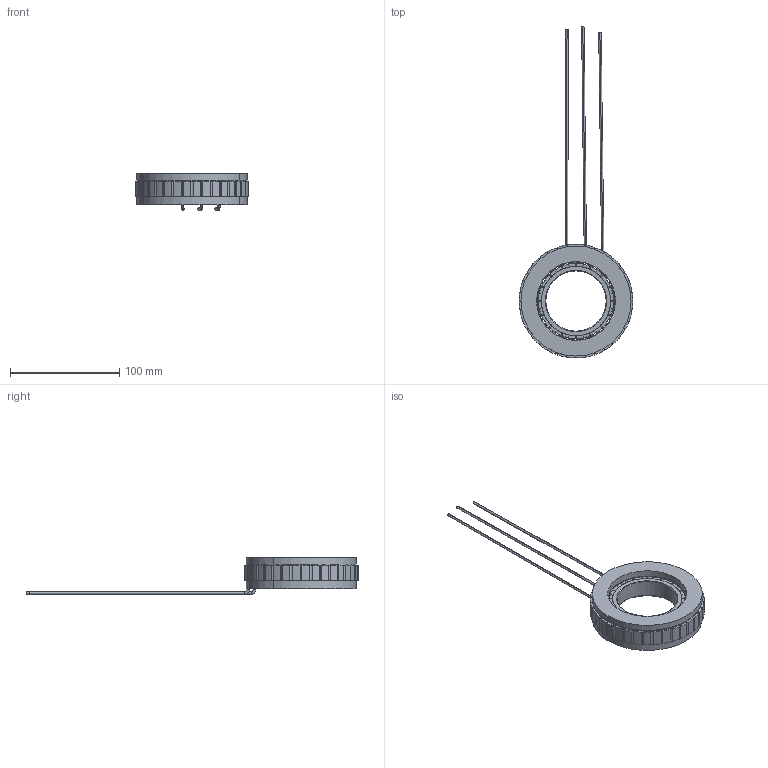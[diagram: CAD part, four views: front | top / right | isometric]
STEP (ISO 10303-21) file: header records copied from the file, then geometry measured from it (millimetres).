
FILE_DESCRIPTION (( 'STEP AP203' ), '1' );
FILE_NAME ('307090276SS 无框力矩电机（FMC10414-0072-3055N-8DS01）-V1.2.STEP', '2024-03-12T10:32:19', ( 'muse' ), ( 'muse' ), 'SwSTEP 2.0', 'SolidWorks 2023', '' );
FILE_SCHEMA (( 'CONFIG_CONTROL_DESIGN' ));
Length unit declared in the file: millimetre
Products named in the file (28): 复件 10212020111 电源线（AWM1332-16AWG 棕）^207012289 定子总成 (104L14-4x0.55-21匝-2-16p星形); 复件 10212020110 电源线（AWM1332-16AWG 蓝）^207012289 定子总成 (104L14-4x0.55-21匝-2-16p星形); 10108010225 定子铁芯（104L14-18Z(含骨架)）; 复件 10212020112 电源线（AWM1332-16AWG 紫）^207012289 定子总成 (104L14-4x0.55-21匝-2-16p星形); 10108060460 磁钢(104L16-16P-50SH(S极）); 10212010010 漆包线（QZY-2180  0.55 GB6109.5-88）; 10108040172  转子铁芯（104L16-16P(40cr电镀)）-V1.1; 207012289 定子总成 (104L14-4x0.55-21匝-2-16p星形); 10108060459 磁钢(104L16-16P-50SH(N极）); 307090276SS 无框力矩电机（FMC10414-0072-3055N-8DS01）-V1.2; 207041860 转子（FMC10414-0060-2555N-8DS00）
Assembly tree (41 placements, depth 3):
  307090276SS 无框力矩电机（FMC10414-0072-3055N-8DS01）-V1.2
    207041860 转子（FMC10414-0060-2555N-8DS00）
      10108040172  转子铁芯（104L16-16P(40cr电镀)）-V1.1
      10108060459 磁钢(104L16-16P-50SH(N极）)  x8
      10108060460 磁钢(104L16-16P-50SH(S极）)  x8
    207012289 定子总成 (104L14-4x0.55-21匝-2-16p星形)
      10108010225 定子铁芯（104L14-18Z(含骨架)）
      10108010225 定子铁芯（104L14-18Z(含骨架)）
      10108010225 定子铁芯（104L14-18Z(含骨架)）
      10108010225 定子铁芯（104L14-18Z(含骨架)）
      10108010225 定子铁芯（104L14-18Z(含骨架)）
      10108010225 定子铁芯（104L14-18Z(含骨架)）
      10108010225 定子铁芯（104L14-18Z(含骨架)）
      10108010225 定子铁芯（104L14-18Z(含骨架)）
      10108010225 定子铁芯（104L14-18Z(含骨架)）
      10108010225 定子铁芯（104L14-18Z(含骨架)）
      10108010225 定子铁芯（104L14-18Z(含骨架)）
      10108010225 定子铁芯（104L14-18Z(含骨架)）
      10108010225 定子铁芯（104L14-18Z(含骨架)）
      10108010225 定子铁芯（104L14-18Z(含骨架)）
      10108010225 定子铁芯（104L14-18Z(含骨架)）
      10108010225 定子铁芯（104L14-18Z(含骨架)）
      10108010225 定子铁芯（104L14-18Z(含骨架)）
      10108010225 定子铁芯（104L14-18Z(含骨架)）
      复件 10212020110 电源线（AWM1332-16AWG 蓝）^207012289 定子总成 (104L14-4x0.55-21匝-2-16p星形)
      复件 10212020111 电源线（AWM1332-16AWG 棕）^207012289 定子总成 (104L14-4x0.55-21匝-2-16p星形)
      复件 10212020112 电源线（AWM1332-16AWG 紫）^207012289 定子总成 (104L14-4x0.55-21匝-2-16p星形)
      10212010010 漆包线（QZY-2180  0.55 GB6109.5-88）
Bounding box: 103.99 x 303.24 x 33.08 mm (x, y, z)
Volume: 120129 mm3; surface area: 70654.6 mm2
Topology: 40 solids, 40 shells, 1286 faces, 3510 edges, 2336 vertices
Faces by surface type: plane 656, bspline 368, cylinder 252, torus 6, cone 4
Entity records: 26836 total; most frequent: CARTESIAN_POINT 7098, ORIENTED_EDGE 3492, DIRECTION 3338, EDGE_CURVE 1746, VECTOR 1182, LINE 1182, VERTEX_POINT 1160, AXIS2_PLACEMENT_3D 1078
